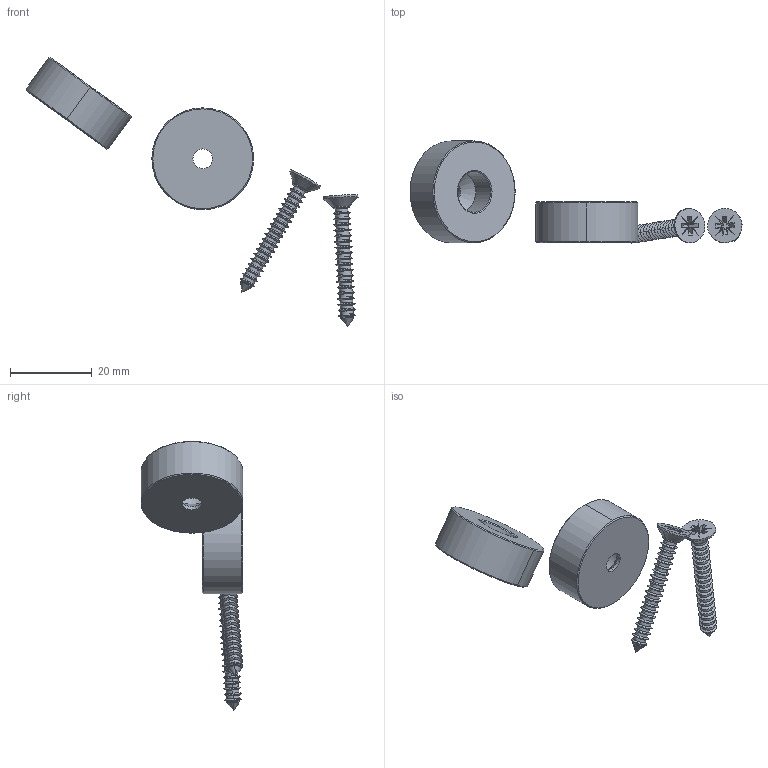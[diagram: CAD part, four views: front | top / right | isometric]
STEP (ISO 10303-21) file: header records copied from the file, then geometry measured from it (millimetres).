
FILE_DESCRIPTION (( 'STEP AP203' ), '1' );
FILE_NAME ('15.08.193 Top & Bottom Turning Blocks F_Pivot Hinge 15.08.192 ø25x10mm.STEP', '2025-10-22T06:06:07', ( '' ), ( '' ), 'SwSTEP 2.0', 'SolidWorks 2024', '' );
FILE_SCHEMA (( 'CONFIG_CONTROL_DESIGN' ));
Length unit declared in the file: millimetre
Products named in the file (4): 15.08.193 Top & Bottom Turning Blocks F_Pivot Hinge 15.08.192 ø25x10mm; 15.08.193-0 Top & Bottom Turning Blocks FPivot Hinge 15.08.192 dia25x10mm; 15.08.193-0 Top & Bottom Turning Blocks FPivot Hinge 15.08.192 dia25x10mm_bottom; cross fh tapping 7976_din
Assembly tree (4 placements, depth 2):
  15.08.193 Top & Bottom Turning Blocks F_Pivot Hinge 15.08.192 ø25x10mm
    15.08.193-0 Top & Bottom Turning Blocks FPivot Hinge 15.08.192 dia25x10mm_bottom
    15.08.193-0 Top & Bottom Turning Blocks FPivot Hinge 15.08.192 dia25x10mm
    cross fh tapping 7976_din  x2
Bounding box: 81.17 x 24.9 x 65.82 mm (x, y, z)
Volume: 9278.2 mm3; surface area: 5038 mm2
Topology: 4 solids, 4 shells, 348 faces, 748 edges, 406 vertices
Faces by surface type: cone 184, cylinder 100, plane 56, bspline 8
Entity records: 5498 total; most frequent: CARTESIAN_POINT 954, DIRECTION 930, ORIENTED_EDGE 808, EDGE_CURVE 404, AXIS2_PLACEMENT_3D 357, VERTEX_POINT 221, LINE 216, VECTOR 216
